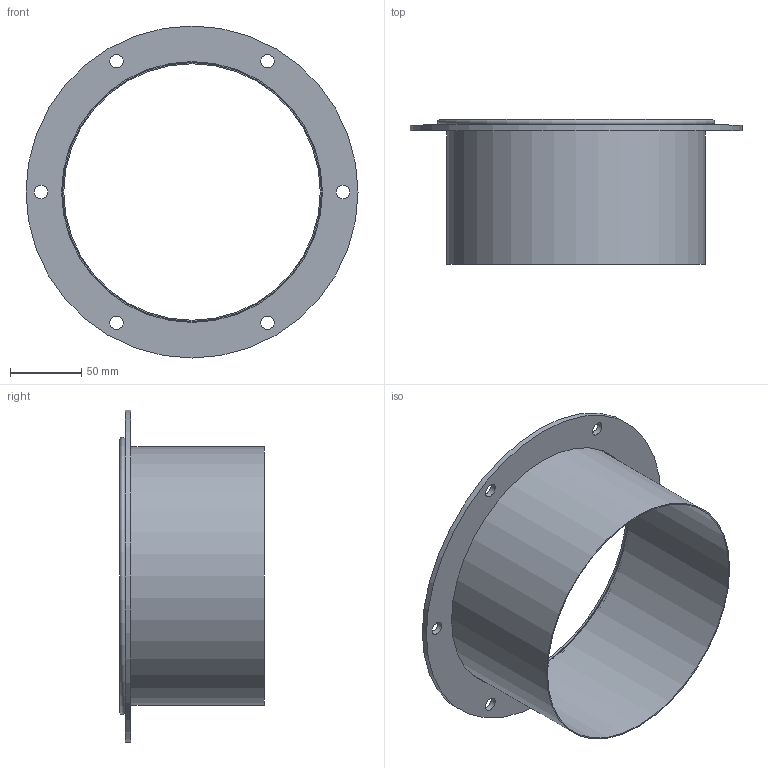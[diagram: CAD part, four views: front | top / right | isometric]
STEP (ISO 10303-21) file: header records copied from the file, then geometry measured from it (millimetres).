
FILE_DESCRIPTION(/* description */ (''),/* implementation_level */ '2;1');
FILE_NAME(/* name */ 'METU_AA126-41B_180_L100.stp',/* time_stamp */ '2018-10-10T13:08:54+02:00',/* author */ (''),/* organization */ (''),/* preprocessor_version */ 'ST-DEVELOPER v11',/* originating_system */ 'SIEMENS UGS NX 6.0',/* authorisation */ '');
FILE_SCHEMA (('CONFIG_CONTROL_DESIGN'));
Length unit declared in the file: millimetre
Products named in the file (1): garsCF17de6d
Bounding box: 233 x 101.5 x 233 mm (x, y, z)
Volume: 123340.7 mm3; surface area: 175929.6 mm2
Topology: 3 solids, 3 shells, 25 faces, 55 edges, 39 vertices
Faces by surface type: cylinder 14, plane 9, torus 2
Full cylindrical faces by diameter (mm): 9.5 x6, 180 x2, 181.6 x2, 183 x1, 191.6 x2, 233 x1
Entity records: 682 total; most frequent: DIRECTION 114, CARTESIAN_POINT 88, FACE_BOUND 62, EDGE_LOOP 62, ORIENTED_EDGE 62, AXIS2_PLACEMENT_3D 57, VERTEX_POINT 31, EDGE_CURVE 31
